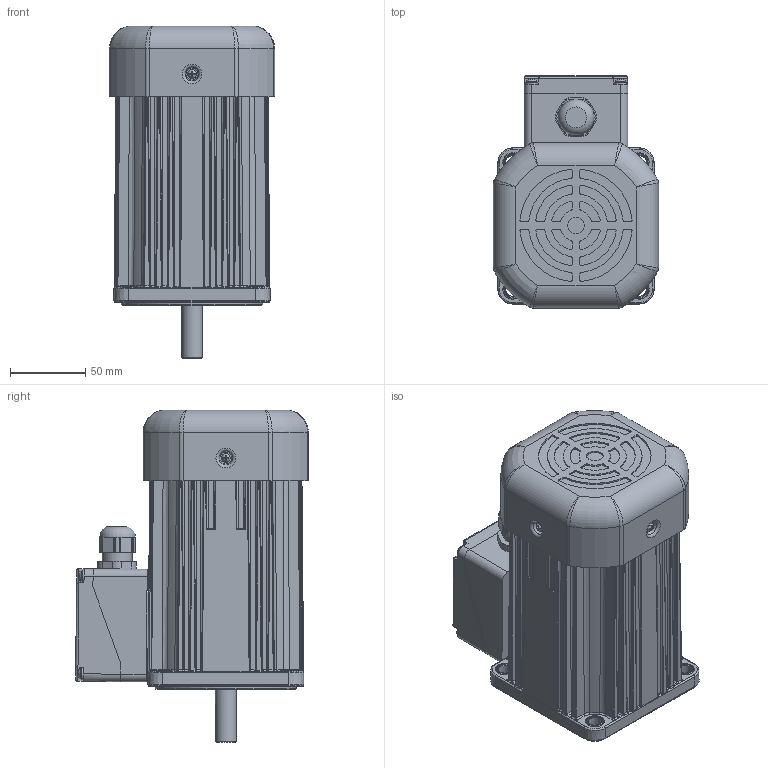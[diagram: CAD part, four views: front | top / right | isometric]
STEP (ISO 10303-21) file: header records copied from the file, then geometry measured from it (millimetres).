
FILE_DESCRIPTION (( 'STEP AP214' ), '1' );
FILE_NAME ('10IDK¤±-300FWH-T.STEP', '2025-01-13T02:42:59', ( '' ), ( '' ), 'SwSTEP 2.0', 'SolidWorks 2024', '' );
FILE_SCHEMA (( 'AUTOMOTIVE_DESIGN' ));
Length unit declared in the file: millimetre
Products named in the file (3): 10IDKE-250FWH; 10IDKㅁ-300FWH-T; TB8090
Assembly tree (2 placements, depth 2):
  10IDKㅁ-300FWH-T
    10IDKE-250FWH
    TB8090
Bounding box: 110 x 154.94 x 221 mm (x, y, z)
Volume: 1960282.9 mm3; surface area: 146232.3 mm2
Topology: 4 solids, 4 shells, 908 faces, 2321 edges, 1432 vertices
Faces by surface type: plane 390, cylinder 262, bspline 158, cone 79, torus 13, sphere 6
Full cylindrical faces by diameter (mm): 5.8 x4, 6.7 x4, 8 x4, 11 x1, 14 x1, 18 x1, 20 x1, 43 x1, 94 x1
Entity records: 48831 total; most frequent: CARTESIAN_POINT 28636, ORIENTED_EDGE 4408, DIRECTION 3740, EDGE_CURVE 2204, VERTEX_POINT 1412, AXIS2_PLACEMENT_3D 1308, LINE 1124, VECTOR 1124
